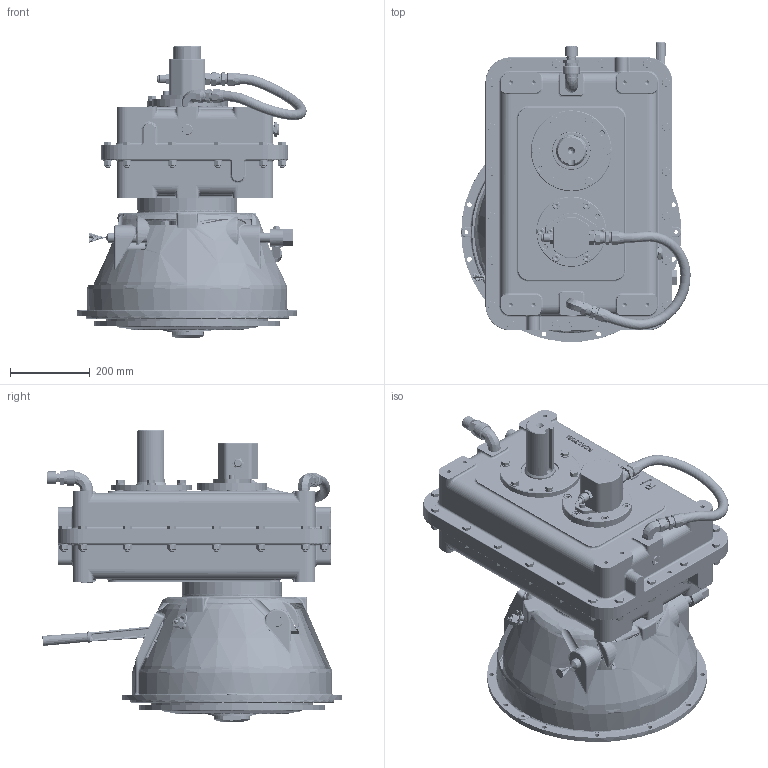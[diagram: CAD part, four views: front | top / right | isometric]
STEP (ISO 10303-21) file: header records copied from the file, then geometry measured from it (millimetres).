
FILE_DESCRIPTION (( 'STEP AP214' ), '1' );
FILE_NAME ('D203A134001.STEP', '2017-09-11T19:23:08', ( 'MikeMihajlovic' ), ( 'Microsoft' ), 'SwSTEP 2.0', 'SolidWorks 2017', '' );
FILE_SCHEMA (( 'AUTOMOTIVE_DESIGN' ));
Length unit declared in the file: inch
Products named in the file (46): SH K-_SH K-22405; RHSKCS.25-20X.50; SH K-_SH K-22407; CV7.25X5.00; SH K-_SH K-22005; PPSKM.75-14; SH K-_SH K-22020; ME12 CTX-S; SH K-_SH K-22420; STC10-F5OX-S_10 HP5ON-S; SH K-_SH K-22007; STC12F5OX-S; OS3.000X3.751-2; LPPGP505-10CW; D203028; PPSKG1.00-11.5_4638K516; SHCS .38-16x1.00_HX-SHCS .38-16x1.00; AV1637-050800; D203027; WTD-14-041; RB1.00x.50NPT; D203026; HHCSZ.50-13x2.00_HHCSZ.50-13X2.50; STEL1.00NPT90; D203024; WTD-14-904; SG.75NPT-01; D203023; HA-12-12-12-25_D203A134001; D203001E; SHCS .25-20x1.00_SHCS .25-20X1.25; 20621-12-12; DWL .50x1.50_DPM .50x1.50; SHCS .50-13x1.25_SHCS.50-13x1.25; .75IDX12_001_OUTPUT; D203001D; D144088; HNZ.500-13_HNZ.500-13; SHCS .50-13x1.50_SHCS.50-13x1.50; HHCSZ.50-13x2.25_HHCSZ.50-13X2.50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
Assembly tree (141 placements, depth 3):
  D203A134001
    D203001D
    DWL .50x1.50_DPM .50x1.50  x2
    D203001E
    SG.75NPT-01
    STEL1.00NPT90
    RB1.00x.50NPT
    AV1637-050800
    PPSKG1.00-11.5_4638K516
    LPPGP505-10CW
    STC12F5OX-S
    STC10-F5OX-S_10 HP5ON-S
    ME12 CTX-S
    PPSKM.75-14
    CV7.25X5.00
    RHSKCS.25-20X.50  x2
    D203021
    OS3.625X4.625-2
    D203022
    SHCS .50-13x1.50_SHCS.50-13x1.50  x6
    D144088
    SHCS .50-13x1.25_SHCS.50-13x1.25  x6
    SHCS .25-20x1.00_SHCS .25-20X1.25  x2
    D203023
    D203024
    D203026
    D203027
    SHCS .38-16x1.00_HX-SHCS .38-16x1.00  x2
    D203028
    OS3.000X3.751-2
    SH K-_SH K-22007  x2
    SH K-_SH K-22420
    SH K-_SH K-22020
    SH K-_SH K-22005
    SH K-_SH K-22407  x2
    SH K-_SH K-22405
    HHCSZ.50-13x1.50_HHCSZ.50-13X1.50  x6
    LWZ .50_LWZ .50  x32
    HHCSZ.50-13x2.25_HHCSZ.50-13X2.50  x20
    HNZ.500-13_HNZ.500-13  x20
    HA-12-12-12-25_D203A134001
      .75IDX12_001_OUTPUT
      20621-12-12  x2
    WTD-14-904
    HHCSZ.50-13x2.00_HHCSZ.50-13X2.50  x6
    WTD-14-041
Bounding box: 575.8 x 752.04 x 730.84 mm (x, y, z)
Volume: 27853088.9 mm3; surface area: 6490303.8 mm2
Topology: 141 solids, 322 shells, 8554 faces, 23240 edges, 15045 vertices
Faces by surface type: cylinder 3226, plane 3017, cone 1283, bspline 827, torus 201
Full cylindrical faces by diameter (mm): 24.663 x2
Entity records: 331807 total; most frequent: CARTESIAN_POINT 139256, ORIENTED_EDGE 33218, DIRECTION 32126, EDGE_CURVE 18345, VERTEX_POINT 12338, AXIS2_PLACEMENT_3D 12051, LINE 8024, VECTOR 8024
